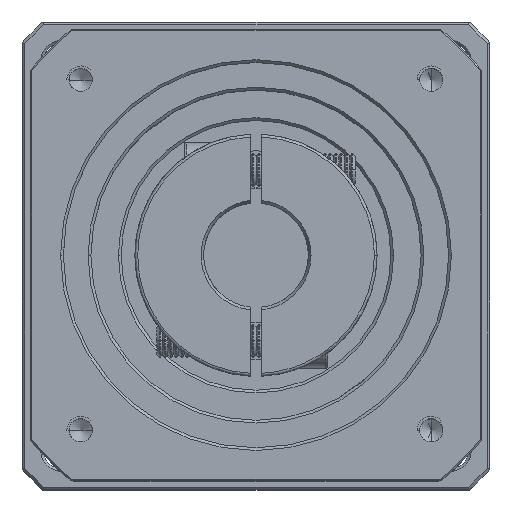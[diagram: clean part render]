
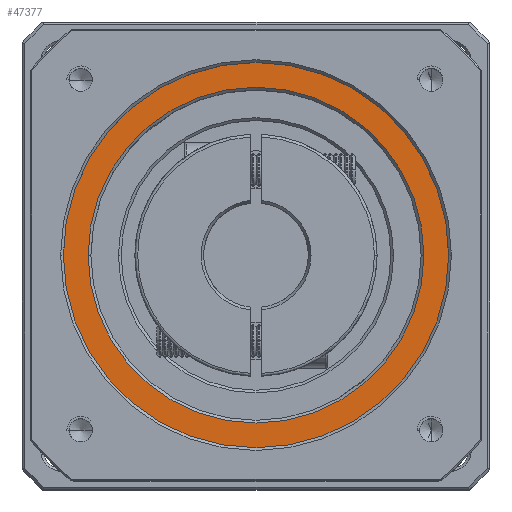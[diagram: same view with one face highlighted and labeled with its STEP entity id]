
A CAD part, top view. The second image highlights one B-rep face of the part: STEP entity #47377.
In plain terms, the highlighted planar face has unit normal (0, 0, 1).
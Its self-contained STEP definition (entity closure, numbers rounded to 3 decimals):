
#675 = DIRECTION ( 'NONE',  ( 0., 0., 1. ) ) ;
#2966 = CIRCLE ( 'NONE', #75706, 30.5 ) ;
#3053 = ORIENTED_EDGE ( 'NONE', *, *, #48128, .T. ) ;
#6464 = VERTEX_POINT ( 'NONE', #48429 ) ;
#11721 = CIRCLE ( 'NONE', #71366, 35. ) ;
#14240 = FACE_BOUND ( 'NONE', #80575, .T. ) ;
#22956 = ORIENTED_EDGE ( 'NONE', *, *, #94326, .T. ) ;
#26750 = DIRECTION ( 'NONE',  ( 0., 0., -1. ) ) ;
#28090 = DIRECTION ( 'NONE',  ( 1., 0., 0. ) ) ;
#37768 = EDGE_CURVE ( 'NONE', #6464, #113318, #86900, .T. ) ;
#40918 = CARTESIAN_POINT ( 'NONE',  ( -17.332, 49.407, -5.726 ) ) ;
#44658 = DIRECTION ( 'NONE',  ( 0., 0., 1. ) ) ;
#44864 = AXIS2_PLACEMENT_3D ( 'NONE', #84194, #44658, #104545 ) ;
#46269 = DIRECTION ( 'NONE',  ( 1., 0., 0. ) ) ;
#47250 = CARTESIAN_POINT ( 'NONE',  ( -52.332, 49.407, -5.726 ) ) ;
#47377 = ADVANCED_FACE ( 'NONE', ( #81028, #14240 ), #62563, .T. ) ;
#48128 = EDGE_CURVE ( 'NONE', #113318, #6464, #2966, .T. ) ;
#48429 = CARTESIAN_POINT ( 'NONE',  ( -21.832, 49.407, -5.726 ) ) ;
#52356 = CARTESIAN_POINT ( 'NONE',  ( -87.332, 49.407, -5.726 ) ) ;
#55406 = AXIS2_PLACEMENT_3D ( 'NONE', #66727, #26750, #46269 ) ;
#56852 = DIRECTION ( 'NONE',  ( 1., 0., 0. ) ) ;
#62563 = PLANE ( 'NONE',  #44864 ) ;
#66727 = CARTESIAN_POINT ( 'NONE',  ( -52.332, 49.407, -5.726 ) ) ;
#68268 = VERTEX_POINT ( 'NONE', #40918 ) ;
#71366 = AXIS2_PLACEMENT_3D ( 'NONE', #47250, #106274, #56852 ) ;
#75542 = ORIENTED_EDGE ( 'NONE', *, *, #79733, .T. ) ;
#75706 = AXIS2_PLACEMENT_3D ( 'NONE', #77971, #126052, #106549 ) ;
#76013 = EDGE_LOOP ( 'NONE', ( #75542, #22956 ) ) ;
#76888 = CARTESIAN_POINT ( 'NONE',  ( -82.832, 49.407, -5.726 ) ) ;
#77172 = CARTESIAN_POINT ( 'NONE',  ( -52.332, 49.407, -5.726 ) ) ;
#77971 = CARTESIAN_POINT ( 'NONE',  ( -52.332, 49.407, -5.726 ) ) ;
#79733 = EDGE_CURVE ( 'NONE', #68268, #124397, #11721, .T. ) ;
#80575 = EDGE_LOOP ( 'NONE', ( #112099, #3053 ) ) ;
#81028 = FACE_OUTER_BOUND ( 'NONE', #76013, .T. ) ;
#84194 = CARTESIAN_POINT ( 'NONE',  ( -52.332, 49.407, -5.726 ) ) ;
#86900 = CIRCLE ( 'NONE', #55406, 30.5 ) ;
#94326 = EDGE_CURVE ( 'NONE', #124397, #68268, #120654, .T. ) ;
#95174 = AXIS2_PLACEMENT_3D ( 'NONE', #77172, #675, #28090 ) ;
#104545 = DIRECTION ( 'NONE',  ( 1., 0., 0. ) ) ;
#106274 = DIRECTION ( 'NONE',  ( 0., 0., 1. ) ) ;
#106549 = DIRECTION ( 'NONE',  ( 1., 0., 0. ) ) ;
#112099 = ORIENTED_EDGE ( 'NONE', *, *, #37768, .T. ) ;
#113318 = VERTEX_POINT ( 'NONE', #76888 ) ;
#120654 = CIRCLE ( 'NONE', #95174, 35. ) ;
#124397 = VERTEX_POINT ( 'NONE', #52356 ) ;
#126052 = DIRECTION ( 'NONE',  ( 0., 0., -1. ) ) ;
